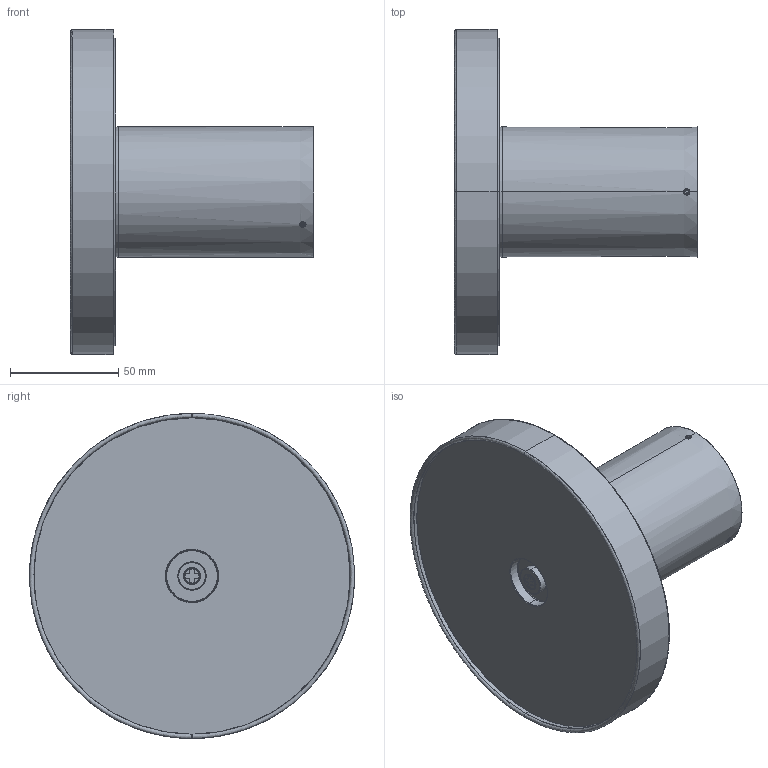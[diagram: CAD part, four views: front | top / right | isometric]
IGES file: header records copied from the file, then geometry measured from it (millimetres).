
Start section: SolidWorks IGES file using analytic representation for surfaces
Global section: file name: \\srvficheros\grupos\DISENYO\DESARROLLO DE PRODUCTO\_3D_WEB\CHAMALEON-A3975101\CHAMALEON-A3975101.IGS; native system: SolidWorks 2025; preprocessor: SolidWorks 2025; author: d.pons; date: 260113.092041; units: millimetre
Bounding box: 112.2 x 150 x 150 mm (x, y, z)
Surface area: 125504.9 mm2 (no closed solid volume)
Topology: 0 solids, 0 shells, 149 faces, 3252 edges, 3252 vertices
Faces by surface type: bspline 75, revolution 74
